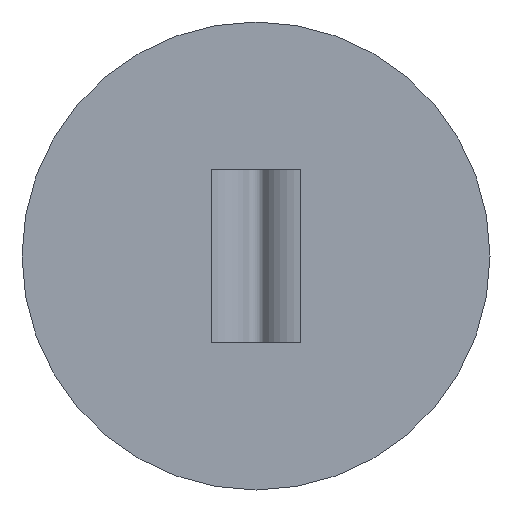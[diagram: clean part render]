
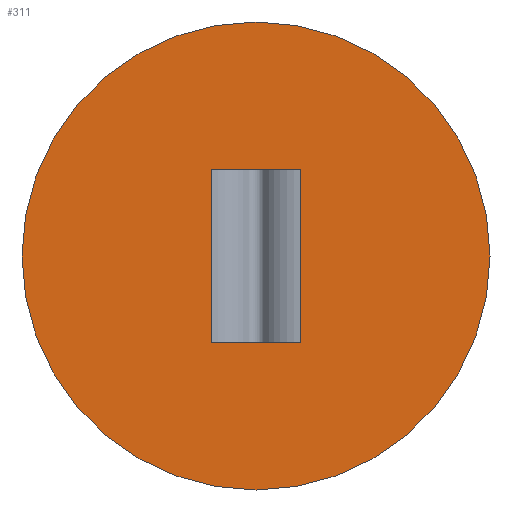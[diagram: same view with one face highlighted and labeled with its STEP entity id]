
A CAD part, front view. The second image highlights one B-rep face of the part: STEP entity #311.
In plain terms, the highlighted planar face has unit normal (0, -1, 0).
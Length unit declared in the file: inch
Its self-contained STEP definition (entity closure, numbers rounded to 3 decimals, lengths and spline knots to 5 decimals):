
#2 = ORIENTED_EDGE ( 'NONE', *, *, #412, .T. ) ;
#6 = DIRECTION ( 'NONE',  ( 0., 0., -1. ) ) ;
#16 = DIRECTION ( 'NONE',  ( 0., -1., 0. ) ) ;
#38 = LINE ( 'NONE', #164, #142 ) ;
#66 = DIRECTION ( 'NONE',  ( 1., 0., 0. ) ) ;
#67 = VECTOR ( 'NONE', #6, 39.37008 ) ;
#72 = CARTESIAN_POINT ( 'NONE',  ( 0., -0.09, 0.857 ) ) ;
#82 = ORIENTED_EDGE ( 'NONE', *, *, #154, .F. ) ;
#87 = CARTESIAN_POINT ( 'NONE',  ( -0.11964, -0.09, 0. ) ) ;
#90 = VERTEX_POINT ( 'NONE', #72 ) ;
#93 = EDGE_CURVE ( 'NONE', #112, #343, #138, .T. ) ;
#97 = FACE_BOUND ( 'NONE', #144, .T. ) ;
#101 = CARTESIAN_POINT ( 'NONE',  ( -0.92876, -0.09, 0.464 ) ) ;
#106 = CARTESIAN_POINT ( 'NONE',  ( 0.11964, -0.09, 0.464 ) ) ;
#110 = CARTESIAN_POINT ( 'NONE',  ( 0., -0.09, 0.232 ) ) ;
#112 = VERTEX_POINT ( 'NONE', #336 ) ;
#117 = ORIENTED_EDGE ( 'NONE', *, *, #200, .F. ) ;
#122 = CIRCLE ( 'NONE', #234, 0.625 ) ;
#126 = CARTESIAN_POINT ( 'NONE',  ( -0.11964, -0.09, 0.464 ) ) ;
#129 = LINE ( 'NONE', #126, #67 ) ;
#138 = LINE ( 'NONE', #101, #189 ) ;
#142 = VECTOR ( 'NONE', #299, 39.37008 ) ;
#144 = EDGE_LOOP ( 'NONE', ( #398, #388, #82, #117 ) ) ;
#154 = EDGE_CURVE ( 'NONE', #251, #313, #38, .T. ) ;
#157 = CARTESIAN_POINT ( 'NONE',  ( 0., -0.09, 0.232 ) ) ;
#164 = CARTESIAN_POINT ( 'NONE',  ( -0.92876, -0.09, 0. ) ) ;
#166 = DIRECTION ( 'NONE',  ( 1., 0., 0. ) ) ;
#167 = DIRECTION ( 'NONE',  ( 1., 0., 0. ) ) ;
#189 = VECTOR ( 'NONE', #167, 39.37008 ) ;
#196 = EDGE_LOOP ( 'NONE', ( #420, #2 ) ) ;
#200 = EDGE_CURVE ( 'NONE', #112, #251, #129, .T. ) ;
#201 = PLANE ( 'NONE',  #381 ) ;
#225 = VECTOR ( 'NONE', #270, 39.37008 ) ;
#231 = EDGE_CURVE ( 'NONE', #418, #90, #122, .T. ) ;
#234 = AXIS2_PLACEMENT_3D ( 'NONE', #157, #293, #66 ) ;
#237 = LINE ( 'NONE', #305, #225 ) ;
#251 = VERTEX_POINT ( 'NONE', #87 ) ;
#261 = DIRECTION ( 'NONE',  ( 0., -1., 0. ) ) ;
#268 = FACE_OUTER_BOUND ( 'NONE', #196, .T. ) ;
#270 = DIRECTION ( 'NONE',  ( 0., 0., -1. ) ) ;
#293 = DIRECTION ( 'NONE',  ( 0., -1., 0. ) ) ;
#298 = DIRECTION ( 'NONE',  ( 0., 0., -1. ) ) ;
#299 = DIRECTION ( 'NONE',  ( 1., 0., 0. ) ) ;
#305 = CARTESIAN_POINT ( 'NONE',  ( 0.11964, -0.09, 0.464 ) ) ;
#311 = ADVANCED_FACE ( 'NONE', ( #268, #97 ), #201, .T. ) ;
#313 = VERTEX_POINT ( 'NONE', #389 ) ;
#331 = EDGE_CURVE ( 'NONE', #343, #313, #237, .T. ) ;
#336 = CARTESIAN_POINT ( 'NONE',  ( -0.11964, -0.09, 0.464 ) ) ;
#343 = VERTEX_POINT ( 'NONE', #106 ) ;
#348 = CIRCLE ( 'NONE', #410, 0.625 ) ;
#381 = AXIS2_PLACEMENT_3D ( 'NONE', #424, #261, #298 ) ;
#388 = ORIENTED_EDGE ( 'NONE', *, *, #331, .T. ) ;
#389 = CARTESIAN_POINT ( 'NONE',  ( 0.11964, -0.09, 0. ) ) ;
#398 = ORIENTED_EDGE ( 'NONE', *, *, #93, .T. ) ;
#402 = CARTESIAN_POINT ( 'NONE',  ( 0., -0.09, -0.393 ) ) ;
#410 = AXIS2_PLACEMENT_3D ( 'NONE', #110, #16, #166 ) ;
#412 = EDGE_CURVE ( 'NONE', #90, #418, #348, .T. ) ;
#418 = VERTEX_POINT ( 'NONE', #402 ) ;
#420 = ORIENTED_EDGE ( 'NONE', *, *, #231, .T. ) ;
#424 = CARTESIAN_POINT ( 'NONE',  ( -0.92876, -0.09, 0.464 ) ) ;
